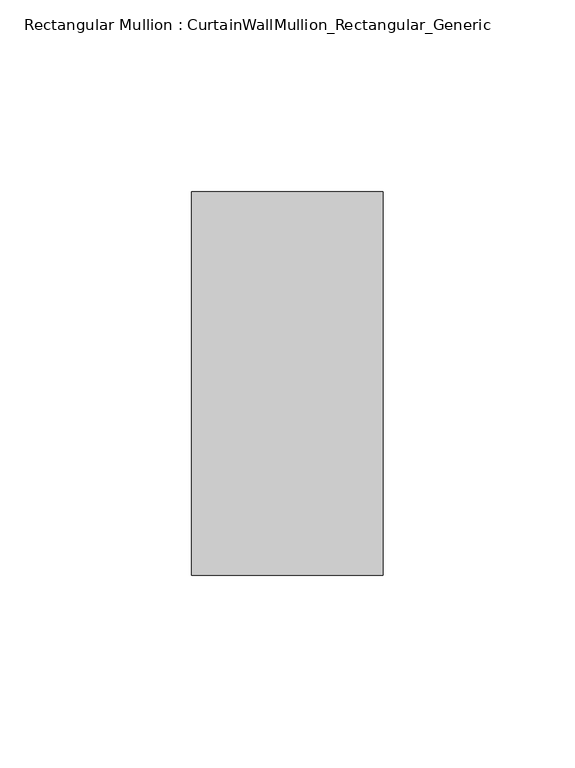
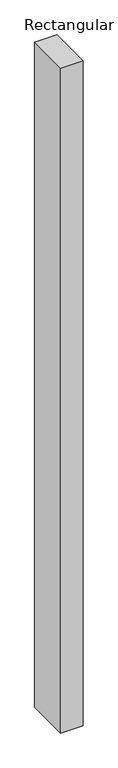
"""IFC4 building model written with IfcOpenShell, lengths in millimetres: member geometry, Rectangular Mullion : CurtainWallMullion_Rectangular_Generic."""

from ifc_helpers import new_model, si_unit, frame, origin, place, context, project, spatial, polyline, outline, extrude, source, transform, mapped, element, save


def rectangular_mullion_curtainwallmullion_rectangular_generic_c971d07e(model_context):
    return source(origin(), model_context, "Body", "SweptSolid", [
        extrude(outline(polyline([(0.0, 50.0), (0.0, -50.0), (-50.0, -50.0), (-50.0, 50.0), (0.0, 50.0)])), frame((0.0, 0.0, -1561.111111), z_axis=(0.0, 0.0, 1.0), x_axis=(1.0, 0.0, 0.0)), (0.0, 0.0, 1.0), 1561.111111),
    ])


if __name__ == "__main__":
    model = new_model("IFC4")
    model_context = context("Model", 3, world=origin())
    ifc_project = project(units=[si_unit("LENGTHUNIT", "METRE", prefix="MILLI")], contexts=[model_context])
    site = spatial("IfcSite", under=ifc_project)
    building = spatial("IfcBuilding", under=site)
    placement = place(None, origin())
    rectangular_mullion_curtainwallmullion_rectangular_generic_shape = rectangular_mullion_curtainwallmullion_rectangular_generic_c971d07e(model_context)
    element("IfcMember", 1, ObjectType="Rectangular Mullion : CurtainWallMullion_Rectangular_Generic", at=placement, inside=building, context=model_context, shape_type="MappedRepresentation", body=[
        mapped(rectangular_mullion_curtainwallmullion_rectangular_generic_shape, transform((0.0, 0.0, 0.0), x_axis=(1.0, 0.0, 0.0), y_axis=(0.0, 1.0, 0.0), z_axis=(0.0, 0.0, 1.0))),
    ])
    save(model, "model.ifc")
